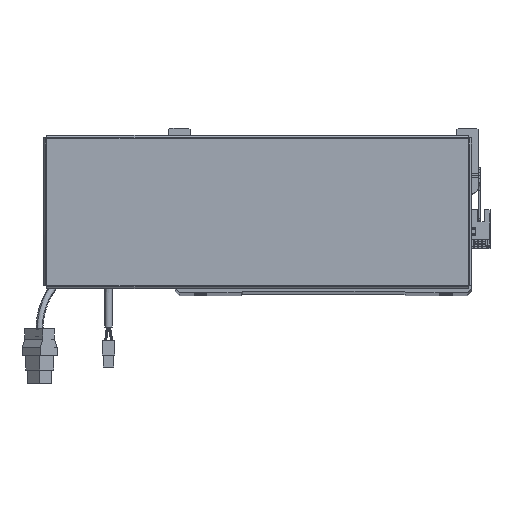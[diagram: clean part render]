
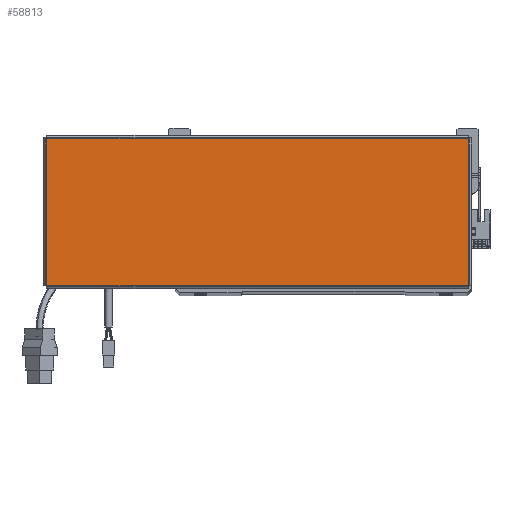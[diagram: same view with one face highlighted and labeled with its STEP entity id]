
A CAD part, top view. The second image highlights one B-rep face of the part: STEP entity #58813.
In plain terms, the highlighted planar face has unit normal (0, 0, 1).
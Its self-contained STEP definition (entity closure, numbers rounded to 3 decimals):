
#3969 = VECTOR ( 'NONE', #10747, 1000. ) ;
#6414 = AXIS2_PLACEMENT_3D ( 'NONE', #53304, #27126, #20923 ) ;
#7192 = CARTESIAN_POINT ( 'NONE',  ( -156.513, -54.763, 0. ) ) ;
#10747 = DIRECTION ( 'NONE',  ( 0., 1., 0. ) ) ;
#11577 = FACE_OUTER_BOUND ( 'NONE', #32314, .T. ) ;
#13296 = VERTEX_POINT ( 'NONE', #49919 ) ;
#14338 = EDGE_CURVE ( 'NONE', #41010, #39979, #64019, .T. ) ;
#15934 = CARTESIAN_POINT ( 'NONE',  ( 156.513, -54.793, 0. ) ) ;
#16194 = CARTESIAN_POINT ( 'NONE',  ( -156.543, -54.763, 0. ) ) ;
#16661 = DIRECTION ( 'NONE',  ( 1., 0., 0. ) ) ;
#17963 = EDGE_CURVE ( 'NONE', #36642, #13296, #66225, .T. ) ;
#19533 = PLANE ( 'NONE',  #6414 ) ;
#20923 = DIRECTION ( 'NONE',  ( 1., 0., 0. ) ) ;
#25617 = CARTESIAN_POINT ( 'NONE',  ( 156.543, 54.763, 0. ) ) ;
#27126 = DIRECTION ( 'NONE',  ( 0., 0., 1. ) ) ;
#31083 = DIRECTION ( 'NONE',  ( -1., 0., 0. ) ) ;
#31944 = LINE ( 'NONE', #15934, #3969 ) ;
#32314 = EDGE_LOOP ( 'NONE', ( #67592, #34218, #42478, #51751 ) ) ;
#34218 = ORIENTED_EDGE ( 'NONE', *, *, #58881, .T. ) ;
#35028 = CARTESIAN_POINT ( 'NONE',  ( 156.513, 54.763, 0. ) ) ;
#36642 = VERTEX_POINT ( 'NONE', #35028 ) ;
#39581 = DIRECTION ( 'NONE',  ( 0., -1., 0. ) ) ;
#39979 = VERTEX_POINT ( 'NONE', #59221 ) ;
#41010 = VERTEX_POINT ( 'NONE', #7192 ) ;
#41434 = LINE ( 'NONE', #67640, #59302 ) ;
#42478 = ORIENTED_EDGE ( 'NONE', *, *, #17963, .T. ) ;
#49919 = CARTESIAN_POINT ( 'NONE',  ( -156.513, 54.763, 0. ) ) ;
#50026 = VECTOR ( 'NONE', #31083, 1000. ) ;
#51677 = EDGE_CURVE ( 'NONE', #13296, #41010, #41434, .T. ) ;
#51751 = ORIENTED_EDGE ( 'NONE', *, *, #51677, .T. ) ;
#53304 = CARTESIAN_POINT ( 'NONE',  ( 0., 0., 0. ) ) ;
#58072 = VECTOR ( 'NONE', #16661, 1000. ) ;
#58813 = ADVANCED_FACE ( 'NONE', ( #11577 ), #19533, .T. ) ;
#58881 = EDGE_CURVE ( 'NONE', #39979, #36642, #31944, .T. ) ;
#59221 = CARTESIAN_POINT ( 'NONE',  ( 156.513, -54.763, 0. ) ) ;
#59302 = VECTOR ( 'NONE', #39581, 1000. ) ;
#64019 = LINE ( 'NONE', #16194, #58072 ) ;
#66225 = LINE ( 'NONE', #25617, #50026 ) ;
#67592 = ORIENTED_EDGE ( 'NONE', *, *, #14338, .T. ) ;
#67640 = CARTESIAN_POINT ( 'NONE',  ( -156.513, 54.793, 0. ) ) ;
